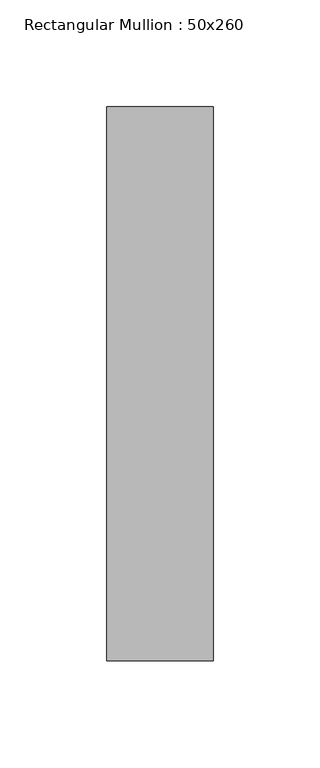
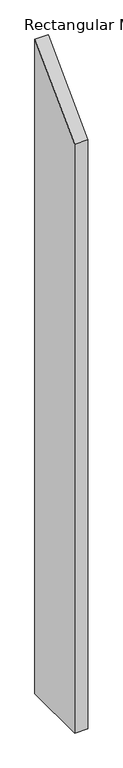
"""IFC4 building model written with IfcOpenShell, lengths in millimetres: member geometry, Rectangular Mullion : 50x260."""

from ifc_helpers import new_model, si_unit, frame, origin, place, context, project, spatial, polyline, outline, extrude, source, transform, mapped, element, save


def rectangular_mullion_50x260_8dd8311a(model_context):
    return source(origin(), model_context, "Body", "SweptSolid", [
        extrude(outline(polyline([(-130.0, -130.0), (130.0, 130.0), (130.0, -2479.7841735), (-130.0, -2479.7841735), (-130.0, -130.0)])), frame((-50.0, 0.0, 0.0), z_axis=(1.0, 0.0, 0.0), x_axis=(0.0, 1.0, 0.0)), (0.0, 0.0, 1.0), 50.0),
    ])


if __name__ == "__main__":
    model = new_model("IFC4")
    model_context = context("Model", 3, world=origin())
    ifc_project = project(units=[si_unit("LENGTHUNIT", "METRE", prefix="MILLI")], contexts=[model_context])
    site = spatial("IfcSite", under=ifc_project)
    building = spatial("IfcBuilding", under=site)
    placement = place(None, origin())
    rectangular_mullion_50x260_shape = rectangular_mullion_50x260_8dd8311a(model_context)
    element("IfcMember", 1, ObjectType="Rectangular Mullion : 50x260", at=placement, inside=building, context=model_context, shape_type="MappedRepresentation", body=[
        mapped(rectangular_mullion_50x260_shape, transform((0.0, 0.0, 0.0), x_axis=(1.0, 0.0, 0.0), y_axis=(0.0, 1.0, 0.0), z_axis=(0.0, 0.0, 1.0))),
    ])
    save(model, "model.ifc")
